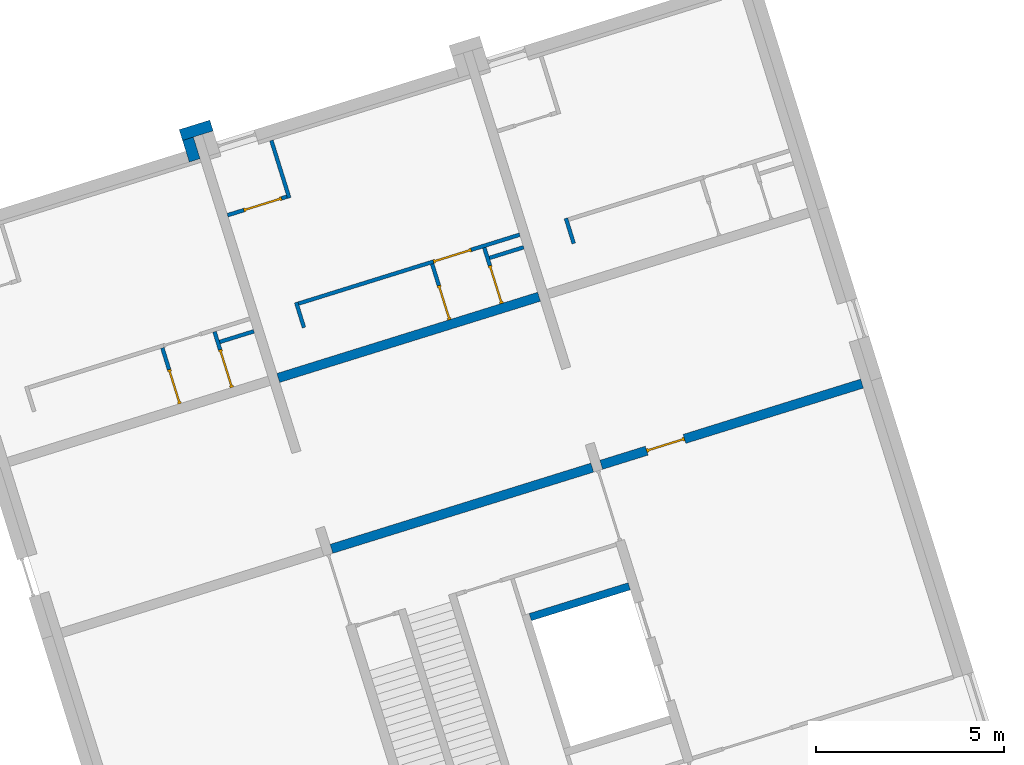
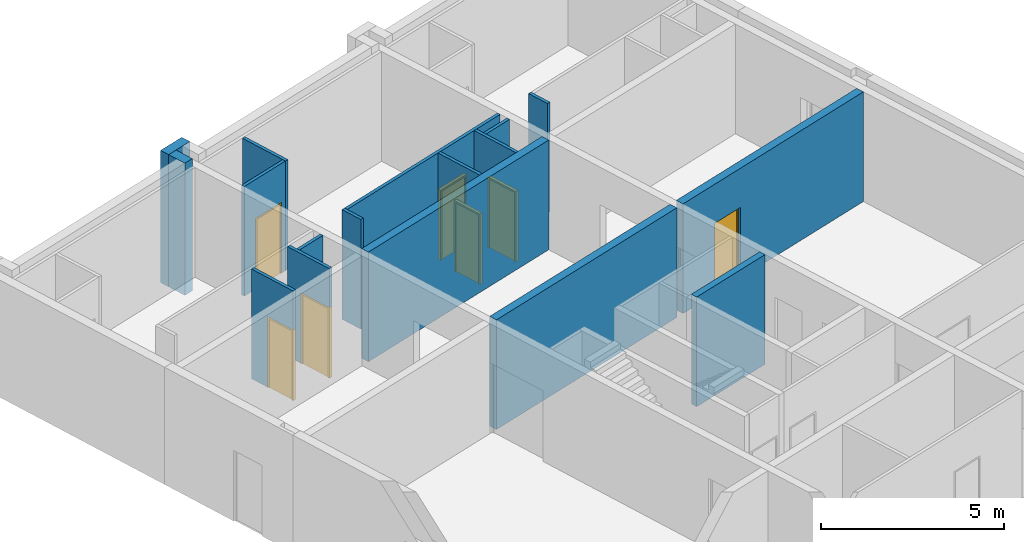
# One storey, part 4 of 10: 17 walls, 7 doors, 8 openings.
"""IFC4 building model written with IfcOpenShell, lengths in metres."""

import ifcopenshell
import ifcopenshell.guid

model = None  # the IFC model being written
_history = None  # IfcOwnerHistory: only IFC2X3 demands one
_inside = {}  # id of a spatial element -> (the spatial element, [elements in it])
_under = {}  # id of a project, library or spatial element -> (it, [spatial elements below it])
_declared = {}  # id of a project -> (the project, [libraries it declares])
_typed = {}  # id of a type object -> (the type object, [elements of that type])
_made_of = {}  # id of a material, layer set ... -> (it, [elements and type objects made of it])


def new_model(schema):
    """Start an empty IFC model of exactly this schema.

    Asked for "IFC4X3", IfcOpenShell would pick the latest addendum, in which some entities
    have other attributes; the version numbers below select the first issue.
    IFC2X3 requires an IfcOwnerHistory on every rooted entity: one is made here for all.
    """
    global model, _history
    if schema == "IFC4X3":
        model = ifcopenshell.file(schema_version=(4, 3, 0, 0))
    else:
        model = ifcopenshell.file(schema=schema)
    _inside.clear()
    _under.clear()
    _declared.clear()
    _typed.clear()
    _made_of.clear()
    _history = None
    if model.schema == "IFC2X3":
        org = make("IfcOrganization", Name="unknown")
        user = make(
            "IfcPersonAndOrganization",
            ThePerson=make("IfcPerson", FamilyName="unknown"),
            TheOrganization=org,
        )
        app = make(
            "IfcApplication",
            ApplicationDeveloper=org,
            Version="unknown",
            ApplicationFullName="unknown",
            ApplicationIdentifier="unknown",
        )
        _history = make(
            "IfcOwnerHistory",
            OwningUser=user,
            OwningApplication=app,
            ChangeAction="ADDED",
            CreationDate=0,
        )
    return model


def make(cls, **values):
    """One entity of the class cls with the attributes given. An attribute that is None is left unset."""
    return model.create_entity(
        cls, **{name: value for name, value in values.items() if value is not None}
    )


def entity(cls, *values):
    """Any entity or typed value of the class cls, its attributes in the order of the schema. None: left unset."""
    e = model.create_entity(cls)
    for i, value in enumerate(values):
        if value is not None:
            e[i] = value
    return e


def rooted(cls, **values):
    """An entity with a GlobalId (a new one), such as an element, a storey or a relation."""
    return make(cls, GlobalId=ifcopenshell.guid.new(), OwnerHistory=_history, **values)


def si_unit(unit_type, name, prefix=None):
    """IfcSIUnit, for example si_unit("LENGTHUNIT", "METRE", prefix="MILLI")."""
    return make("IfcSIUnit", UnitType=unit_type, Prefix=prefix, Name=name)


def converted_unit(unit_type, name, factor, base, dimensions=None, offset=None):
    """IfcConversionBasedUnit, such as the inch: factor (a typed value) times the base unit."""
    return make(
        "IfcConversionBasedUnit"
        if offset is None
        else "IfcConversionBasedUnitWithOffset",
        ConversionOffset=offset,
        Dimensions=None
        if dimensions is None
        else entity("IfcDimensionalExponents", *dimensions),
        UnitType=unit_type,
        Name=name,
        ConversionFactor=make(
            "IfcMeasureWithUnit", ValueComponent=factor, UnitComponent=base
        ),
    )


def assignment(units):
    """IfcUnitAssignment: the units of a project."""
    return None if units is None else make("IfcUnitAssignment", Units=units)


def point(xyz):
    """IfcCartesianPoint."""
    return None if xyz is None else make("IfcCartesianPoint", Coordinates=xyz)


def direction(xyz):
    """IfcDirection."""
    return None if xyz is None else make("IfcDirection", DirectionRatios=xyz)


def frame(location, z_axis=None, x_axis=None):
    """IfcAxis2Placement3D, a coordinate frame: its origin and axes. An axis left out is left unset."""
    return make(
        "IfcAxis2Placement3D",
        Location=point(location),
        Axis=direction(z_axis),
        RefDirection=direction(x_axis),
    )


def origin():
    """The frame at (0, 0, 0) with its axes left unset."""
    return frame((0.0, 0.0, 0.0))


def place(relative_to, where):
    """IfcLocalPlacement: puts the frame where relative to a parent placement (None: the world)."""
    return make(
        "IfcLocalPlacement", PlacementRelTo=relative_to, RelativePlacement=where
    )


def context(
    kind, dimensions, precision=None, world=None, true_north=None, identifier=None
):
    """IfcGeometricRepresentationContext, for example the 3D "Model" context."""
    return make(
        "IfcGeometricRepresentationContext",
        ContextIdentifier=identifier,
        ContextType=kind,
        CoordinateSpaceDimension=dimensions,
        Precision=precision,
        WorldCoordinateSystem=world,
        TrueNorth=true_north,
    )


def subcontext(parent, identifier, kind, view, scale=None):
    """IfcGeometricRepresentationSubContext, for example "Body" below "Model"."""
    return make(
        "IfcGeometricRepresentationSubContext",
        ContextIdentifier=identifier,
        ContextType=kind,
        ParentContext=parent,
        TargetScale=scale,
        TargetView=view,
    )


def project(units=None, contexts=None):
    """IfcProject with its units and contexts."""
    return rooted(
        "IfcProject",
        Name="project",
        RepresentationContexts=contexts,
        UnitsInContext=assignment(units),
    )


def spatial(cls, under=None, at=None, **own):
    """A site, building, storey or space (cls), placed at a placement, below another one or the project."""
    s = rooted(cls, ObjectPlacement=at, **own)
    if under is not None:
        _under.setdefault(under.id(), (under, []))[1].append(s)
    return s


def point_list(points):
    """IfcCartesianPointList2D or 3D."""
    cls = (
        "IfcCartesianPointList2D" if len(points[0]) == 2 else "IfcCartesianPointList3D"
    )
    return make(cls, CoordList=points)


def indexed_curve(points, segments=None, self_intersect=None):
    """IfcIndexedPolyCurve: lines and arcs through numbered points (the first is 1)."""
    return make(
        "IfcIndexedPolyCurve",
        Points=point_list(points),
        Segments=segments,
        SelfIntersect=self_intersect,
    )


def outline(outer, holes=None, kind="AREA"):
    """IfcArbitraryClosedProfileDef: a profile drawn as a closed curve; with holes, ...WithVoids."""
    if holes is None:
        return make("IfcArbitraryClosedProfileDef", ProfileType=kind, OuterCurve=outer)
    return make(
        "IfcArbitraryProfileDefWithVoids",
        ProfileType=kind,
        OuterCurve=outer,
        InnerCurves=holes,
    )


def extrude(swept, where, along, depth):
    """IfcExtrudedAreaSolid: the profile swept, set in the frame where, extruded along a direction by depth."""
    return make(
        "IfcExtrudedAreaSolid",
        SweptArea=swept,
        Position=where,
        ExtrudedDirection=direction(along),
        Depth=depth,
    )


def polygons(points, faces, closed=None, point_numbers=None):
    """IfcPolygonalFaceSet: a face is its outer loop, then its inner loops; points numbered from 1."""
    made = []
    for loops in faces:
        if len(loops) == 1:
            made.append(make("IfcIndexedPolygonalFace", CoordIndex=loops[0]))
        else:
            made.append(
                make(
                    "IfcIndexedPolygonalFaceWithVoids",
                    CoordIndex=loops[0],
                    InnerCoordIndices=loops[1:],
                )
            )
    return make(
        "IfcPolygonalFaceSet",
        Coordinates=point_list(points),
        Closed=closed,
        Faces=made,
        PnIndex=point_numbers,
    )


def shape(context_of_items, identifier, shape_type, items):
    """IfcShapeRepresentation: the items that make up one representation, for example the "Body"."""
    return make(
        "IfcShapeRepresentation",
        ContextOfItems=context_of_items,
        RepresentationIdentifier=identifier,
        RepresentationType=shape_type,
        Items=items,
    )


def source(mapping_origin, context_of_items, identifier, shape_type, items):
    """IfcRepresentationMap: a shape defined once, which mapped items show again and again."""
    return make(
        "IfcRepresentationMap",
        MappingOrigin=mapping_origin,
        MappedRepresentation=shape(context_of_items, identifier, shape_type, items),
    )


def transform(
    local_origin,
    x_axis=None,
    y_axis=None,
    z_axis=None,
    scale=None,
    scale2=None,
    scale3=None,
    uniform=True,
):
    """IfcCartesianTransformationOperator3D, or its non-uniform kind. x_axis, y_axis, z_axis: its Axis1, 2, 3."""
    if uniform:
        return make(
            "IfcCartesianTransformationOperator3D",
            Axis1=direction(x_axis),
            Axis2=direction(y_axis),
            LocalOrigin=point(local_origin),
            Scale=scale,
            Axis3=direction(z_axis),
        )
    return make(
        "IfcCartesianTransformationOperator3DnonUniform",
        Axis1=direction(x_axis),
        Axis2=direction(y_axis),
        LocalOrigin=point(local_origin),
        Scale=scale,
        Axis3=direction(z_axis),
        Scale2=scale2,
        Scale3=scale3,
    )


def mapped(mapping_source, mapping_target):
    """IfcMappedItem: shows the shape of a source again, moved by a transform."""
    return make(
        "IfcMappedItem", MappingSource=mapping_source, MappingTarget=mapping_target
    )


def material(Name=None, Category=None):
    """IfcMaterial."""
    return make("IfcMaterial", Name=Name, Category=Category)


def constituent(of_material, Name=None, Category=None, fraction=None):
    """IfcMaterialConstituent: one of the materials an element consists of."""
    return make(
        "IfcMaterialConstituent",
        Name=Name,
        Material=of_material,
        Fraction=fraction,
        Category=Category,
    )


def constituent_set(constituents=None, Name=None):
    """IfcMaterialConstituentSet."""
    return make(
        "IfcMaterialConstituentSet", Name=Name, MaterialConstituents=constituents
    )


def made_of(thing, what):
    """Note that an element or type object is made of a material, layer set ...; save() writes the relation."""
    if what is not None:
        _made_of.setdefault(what.id(), (what, []))[1].append(thing)
    return thing


def type_object(cls, material=None, **own):
    """A type object (cls), such as IfcWallType, which elements share."""
    return made_of(rooted(cls, **own), material)


def type_shapes(of_type, sources):
    """Give a type object the sources (RepresentationMaps) that its elements show as mapped items."""
    of_type.RepresentationMaps = sources


def element(
    cls,
    number,
    at=None,
    inside=None,
    cuts=None,
    type_object=None,
    material=None,
    context=None,
    identifier="Body",
    shape_type=None,
    held_by="IfcProductDefinitionShape",
    body=None,
    shapes=None,
    **own,
):
    """One element of the class cls, such as IfcWall. Its Tag is "e" and its number.

    at: its placement. inside: the storey or other place that contains it. cuts: it is an
    opening in that element (IfcRelVoidsElement). A single representation is given by context,
    identifier, shape_type and body (its items); several are given by shapes. held_by: the class
    of the entity that holds the representations. save() writes the other relations.
    """
    e = rooted(cls, Tag="e%d" % number, ObjectPlacement=at, **own)
    if body is not None:
        shapes = [shape(context, identifier, shape_type, body)]
    if shapes is not None:
        e.Representation = make(held_by, Representations=shapes)
    if inside is not None:
        _inside.setdefault(inside.id(), (inside, []))[1].append(e)
    if cuts is not None:
        rooted(
            "IfcRelVoidsElement", RelatingBuildingElement=cuts, RelatedOpeningElement=e
        )
    if type_object is not None:
        _typed.setdefault(type_object.id(), (type_object, []))[1].append(e)
    return made_of(e, material)


def fill(opening, filler):
    """IfcRelFillsElement: the door or window that sits in an opening."""
    return rooted(
        "IfcRelFillsElement",
        RelatingOpeningElement=opening,
        RelatedBuildingElement=filler,
    )


def aggregate(whole, parts):
    """IfcRelAggregates: a whole, such as a stair, and the parts it consists of."""
    return rooted("IfcRelAggregates", RelatingObject=whole, RelatedObjects=parts)


def save(model, path):
    """Write the relations noted so far, then the file.

    IfcRelAggregates (storeys below a building ...), IfcRelContainedInSpatialStructure (elements
    in a storey), IfcRelDefinesByType, IfcRelAssociatesMaterial and IfcRelDeclares: one each for
    every whole, place, type object, material and project.
    """
    for whole, parts in _under.values():
        aggregate(whole, parts)
    for where, things in _inside.values():
        rooted(
            "IfcRelContainedInSpatialStructure",
            RelatedElements=things,
            RelatingStructure=where,
        )
    for kind, things in _typed.values():
        rooted("IfcRelDefinesByType", RelatedObjects=things, RelatingType=kind)
    for what, things in _made_of.values():
        rooted("IfcRelAssociatesMaterial", RelatedObjects=things, RelatingMaterial=what)
    for by, libraries in _declared.values():
        rooted("IfcRelDeclares", RelatingContext=by, RelatedDefinitions=libraries)
    model.write(path)


model = new_model("IFC4")

# Units and contexts
model_context = context("Model", 3, precision=1e-05, world=origin(), true_north=direction((6.12323399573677e-17, 1.0)))
body_context = subcontext(model_context, "Body", "Model", "MODEL_VIEW")
ifc_project = project(units=[si_unit("LENGTHUNIT", "METRE"), si_unit("AREAUNIT", "SQUARE_METRE"), converted_unit("PLANEANGLEUNIT", "DEGREE", entity("IfcPlaneAngleMeasure", 0.0174532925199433), si_unit("PLANEANGLEUNIT", "RADIAN"), dimensions=[0, 0, 0, 0, 0, 0, 0]), si_unit("VOLUMEUNIT", "CUBIC_METRE")], contexts=[model_context])

# Site, building, storey
site_placement = place(None, frame((13.1347999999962, 11.9886000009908, 0.0), z_axis=(0.0, 0.0, 1.0), x_axis=(0.954770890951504, 0.297342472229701, 0.0)))
site = spatial("IfcSite", under=ifc_project, at=site_placement, Name="Schiehaven", CompositionType="ELEMENT")
building_placement = place(site_placement, origin())
building = spatial("IfcBuilding", under=site, at=building_placement, Name="VORM huis", CompositionType="ELEMENT")
storey_placement = place(building_placement, origin())
storey = spatial("IfcBuildingStorey", under=building, at=storey_placement, Name="00 begane grond", CompositionType="ELEMENT", Elevation=0.0)

# Walls
ifc_material_1 = material(Name="beton_gewapend_ihw", Category="Miscellaneous")
wall_type_1 = type_object("IfcWallType", Name="Basic Wall:28_WA_skelet_wand 250mm_gen", PredefinedType="STANDARD")
wall_1_placement = place(storey_placement, frame((72.3750000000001, 22.1999999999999, 0.0), z_axis=(0.0, 0.0, 1.0), x_axis=(-1.0, 0.0, 0.0)))
element("IfcWall", 1, at=wall_1_placement, inside=storey, type_object=wall_type_1, material=ifc_material_1, Name="Constructieve wand", ObjectType="Wand", PredefinedType="NOTDEFINED", context=body_context, shape_type="SweptSolid", body=[
    extrude(outline(indexed_curve([(7.25000000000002, 0.125000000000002), (2.09007477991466e-15, 0.125000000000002), (-2.09007477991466e-15, -0.125000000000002), (7.25000000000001, -0.125000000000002), (7.25000000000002, 0.125000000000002)], self_intersect=False)), origin(), (0.0, 0.0, 1.0), 3.65),
])
ifc_material_2 = material(Name="ntb_ntb_ntb", Category="Miscellaneous")
wall_type_2 = type_object("IfcWallType", Name="Basic Wall: 300mm_gen", PredefinedType="STANDARD")
wall_2_placement = place(storey_placement, frame((64.7250000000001, 33.7249999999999, -0.5), z_axis=(0.0, 0.0, 1.0), x_axis=(0.0, -1.0, 0.0)))
element("IfcWall", 2, at=wall_2_placement, inside=storey, type_object=wall_type_2, material=ifc_material_2, Name="Gevelwand", ObjectType="Wand", PredefinedType="NOTDEFINED", context=body_context, shape_type="SweptSolid", body=[
    extrude(outline(indexed_curve([(0.600000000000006, 0.150000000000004), (-9.66298299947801e-16, 0.150000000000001), (9.66298299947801e-16, -0.150000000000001), (0.600000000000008, -0.149999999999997), (0.600000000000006, 0.150000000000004)], self_intersect=False)), origin(), (0.0, 0.0, 1.0), 4.4),
])
wall_3_placement = place(storey_placement, frame((65.4250000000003, 33.8749999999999, -0.5), z_axis=(0.0, 0.0, 1.0), x_axis=(-1.0, 0.0, 0.0)))
element("IfcWall", 3, at=wall_3_placement, inside=storey, type_object=wall_type_2, material=ifc_material_2, Name="Gevelwand", ObjectType="Wand", PredefinedType="NOTDEFINED", context=body_context, shape_type="SweptSolid", body=[
    extrude(outline(indexed_curve([(0.850000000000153, 0.150000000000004), (-6.58211410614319e-16, 0.150000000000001), (6.58211410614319e-16, -0.150000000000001), (0.850000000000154, -0.149999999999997), (0.850000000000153, 0.150000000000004)], self_intersect=False)), origin(), (0.0, 0.0, 1.0), 4.4),
])
ifc_material_3 = material(Name="beton_gewapend_prefab-element", Category="Miscellaneous")
wall_type_3 = type_object("IfcWallType", Name="Basic Wall:28_WA_skelet_wand 200mm_gen", PredefinedType="STANDARD")
wall_4_placement = place(storey_placement, frame((69.6250000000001, 18.9, 0.0)))
element("IfcWall", 4, at=wall_4_placement, inside=storey, type_object=wall_type_3, material=ifc_material_3, Name="Constructieve wand", ObjectType="Wand", PredefinedType="NOTDEFINED", context=body_context, shape_type="SweptSolid", body=[
    extrude(outline(indexed_curve([(2.75000000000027, 0.0999999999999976), (2.05391259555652e-16, 0.0999999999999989), (-2.05391259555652e-16, -0.0999999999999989), (2.75000000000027, -0.1), (2.75000000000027, 0.0999999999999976)], self_intersect=False)), origin(), (0.0, 0.0, 1.0), 3.65),
])

# Wall, opening, door
wall_type_4 = type_object("IfcWallType", Name="Basic Wall:22_WA_afbouw_binnenwand 250mm_gen", PredefinedType="STANDARD")
wall_5_placement = place(storey_placement, frame((72.6250000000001, 22.1999999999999, 0.0)))
wall_5 = element("IfcWall", 5, at=wall_5_placement, inside=storey, type_object=wall_type_4, material=ifc_material_2, Name="Binnenwand", ObjectType="Wand", PredefinedType="NOTDEFINED", context=body_context, shape_type="Tessellation", body=[
    polygons([(-3.32898712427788e-15, -0.124999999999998, 0.0), (1.26249999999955, -0.124999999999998, 0.0), (1.26249999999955, -0.124999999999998, 2.34999999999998), (2.31249999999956, -0.124999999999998, 2.34999999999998), (2.31249999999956, -0.124999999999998, 0.0), (7.24999999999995, -0.124999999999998, 0.0), (7.24999999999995, -0.124999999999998, 3.65), (-3.32898712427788e-15, -0.124999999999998, 3.65), (1.26249999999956, 0.125000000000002, 2.34999999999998), (1.26249999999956, 0.125000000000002, 0.0), (9.50064318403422e-16, 0.125000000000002, 0.0), (9.50064318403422e-16, 0.125000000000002, 3.65), (7.24999999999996, 0.125000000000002, 3.65), (7.24999999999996, 0.125000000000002, 0.0), (2.31249999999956, 0.125000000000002, 0.0), (2.31249999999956, 0.125000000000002, 2.34999999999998)], [[[1, 2, 3, 4, 5, 6, 7, 8]], [[9, 10, 11, 12, 13, 14, 15, 16]], [[11, 10, 2, 1]], [[7, 6, 14, 13]], [[8, 7, 13, 12]], [[1, 8, 12, 11]], [[5, 4, 16, 15]], [[3, 2, 10, 9]], [[4, 3, 9, 16]], [[15, 14, 6, 5]]], closed=True),
])
opening_1_placement = place(wall_5_placement, frame((2.31249999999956, 0.125000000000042, 0.0)))
opening_1 = element("IfcOpeningElement", 6, at=opening_1_placement, cuts=wall_5, Name="Vluchtdeur", PredefinedType="OPENING", context=body_context, shape_type="SweptSolid", body=[
    extrude(outline(indexed_curve([(2.34999999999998, 1.1004904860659e-29), (2.34999999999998, 1.05), (0.0, 1.05), (0.0, 1.1004904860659e-29), (2.34999999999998, 1.1004904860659e-29)], self_intersect=False)), frame((0.0, 0.0, 0.0), z_axis=(0.0, -1.0, 0.0), x_axis=(0.0, 0.0, 1.0)), (0.0, 0.0, 1.0), 0.25),
])
ifc_material_4 = material(Name="PD_a_binnenwandopeningen", Category="Miscellaneous")
ifc_constituent_1 = constituent(ifc_material_4, Name="PD_a_binnenwandopeningen", Category="Miscellaneous")
ifc_material_5 = material(Name="metaal_aluminium_ntb", Category="Miscellaneous")
ifc_constituent_2 = constituent(ifc_material_5, Name="metaal_aluminium_ntb", Category="Miscellaneous")
ifc_constituent_set_1 = constituent_set(constituents=[ifc_constituent_1, ifc_constituent_2])
ifc_constituent_3 = constituent(ifc_material_4, Name="PD_a_binnenwandopeningen", Category="Miscellaneous")
ifc_constituent_4 = constituent(ifc_material_5, Name="Panel", Category="Miscellaneous")
ifc_constituent_set_2 = constituent_set(constituents=[ifc_constituent_3, ifc_constituent_4])
door_type_1 = type_object("IfcDoorType", Name="32_DO_binnendeur enkel:binnendeur zelfsluitend 30min", OperationType="NOTDEFINED", PredefinedType="DOOR", material=ifc_constituent_set_2)
shared_shape_1 = source(origin(), body_context, "Body", "SweptSolid", [
    extrude(outline(indexed_curve([(0.475, -1.16249999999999), (0.525000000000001, -1.16249999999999), (0.525000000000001, 1.18749999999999), (-0.525000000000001, 1.18749999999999), (-0.525000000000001, -1.16249999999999), (-0.475, -1.16249999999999), (-0.475, 1.13749999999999), (0.475, 1.13749999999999), (0.475, -1.16249999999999)], self_intersect=False)), frame((0.525000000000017, 0.174999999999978, 1.16249999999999), z_axis=(0.0, -1.0, 0.0), x_axis=(1.0, 0.0, 0.0)), (0.0, 0.0, 1.0), 0.1),
    extrude(outline(indexed_curve([(-0.475, -0.025), (0.475, -0.025), (0.475, 0.025), (-0.475, 0.025), (-0.475, -0.025)], self_intersect=False)), frame((0.525000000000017, 0.12499999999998, 0.0)), (0.0, 0.0, 1.0), 2.29999999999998),
])
type_shapes(door_type_1, [shared_shape_1])
door_1_placement = place(opening_1_placement, frame((0.0, 0.0, 0.0), z_axis=(0.0, 0.0, 1.0), x_axis=(-1.0, 0.0, 0.0)))
door_1 = element("IfcDoor", 7, at=door_1_placement, inside=storey, type_object=door_type_1, material=ifc_constituent_set_1, Name="Vluchtdeur", ObjectType="Deur", OperationType="NOTDEFINED", OverallHeight=2.34999999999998, OverallWidth=1.05, PredefinedType="DOOR", context=body_context, shape_type="MappedRepresentation", body=[
    mapped(shared_shape_1, transform((0.0, 0.0, 0.0), scale=1.0)),
])
fill(opening_1, door_1)

# Wall
wall_6_placement = place(storey_placement, frame((72.375, 26.9499999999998, 0.0), z_axis=(0.0, 0.0, 1.0), x_axis=(-1.0, 0.0, 0.0)))
element("IfcWall", 8, at=wall_6_placement, inside=storey, type_object=wall_type_4, material=ifc_material_2, Name="Binnenwand", ObjectType="Wand", PredefinedType="NOTDEFINED", context=body_context, shape_type="SweptSolid", body=[
    extrude(outline(indexed_curve([(7.24999999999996, 0.125000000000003), (2.22995564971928e-15, 0.125000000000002), (-2.22995564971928e-15, -0.125000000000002), (7.24999999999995, -0.125000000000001), (7.24999999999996, 0.125000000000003)], self_intersect=False)), origin(), (0.0, 0.0, 1.0), 3.65),
])

# Wall, opening, door
wall_type_5 = type_object("IfcWallType", Name="Basic Wall:22_WA_afbouw_binnenwand 100mm_gen", PredefinedType="STANDARD")
wall_7_placement = place(storey_placement, frame((62.4250000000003, 28.6249999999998, 0.0), z_axis=(0.0, 0.0, 1.0), x_axis=(0.0, -1.0, 0.0)))
wall_7 = element("IfcWall", 9, at=wall_7_placement, inside=storey, type_object=wall_type_5, material=ifc_material_2, Name="Binnenwand", ObjectType="Wand", PredefinedType="NOTDEFINED", context=body_context, shape_type="Tessellation", body=[
    polygons([(1.55, -0.0500000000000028, 3.65), (4.33146851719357e-15, -0.0500000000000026, 3.65), (4.33146851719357e-15, -0.0500000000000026, 0.0), (0.599999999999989, -0.0500000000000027, 0.0), (0.599999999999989, -0.0500000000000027, 2.34999999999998), (1.55, -0.0500000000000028, 2.34999999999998), (4.33146851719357e-15, 0.0500000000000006, 3.65), (1.55, 0.0500000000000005, 3.65), (1.55, 0.0500000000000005, 2.34999999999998), (0.599999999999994, 0.0500000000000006, 2.34999999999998), (0.599999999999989, 0.0500000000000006, 0.0), (4.33146851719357e-15, 0.0500000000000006, 0.0), (0.0, 0.0500000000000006, 2.34999999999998)], [[[1, 2, 3, 4, 5, 6]], [[7, 8, 9, 10, 11, 12, 13]], [[3, 12, 11, 4]], [[8, 1, 6, 9]], [[2, 1, 8, 7]], [[10, 5, 4, 11]], [[5, 10, 9, 6]], [[3, 2, 7, 13, 12]]], closed=True),
])
opening_2_placement = place(wall_7_placement, frame((0.599999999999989, -0.0499999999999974, 0.0)))
opening_2 = element("IfcOpeningElement", 10, at=opening_2_placement, cuts=wall_7, Name="Binnendeur", PredefinedType="OPENING", context=body_context, shape_type="SweptSolid", body=[
    extrude(outline(indexed_curve([(2.34999999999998, 0.950000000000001), (0.0, 0.950000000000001), (0.0, 2.70716782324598e-16), (2.34999999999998, 2.70716782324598e-16), (2.34999999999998, 0.950000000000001)], self_intersect=False)), frame((0.0, 0.0, 0.0), z_axis=(0.0, 1.0, 0.0), x_axis=(0.0, 0.0, 1.0)), (0.0, 0.0, 1.0), 0.1),
])
ifc_constituent_5 = constituent(ifc_material_4, Name="PD_a_binnenwandopeningen", Category="Miscellaneous")
ifc_constituent_6 = constituent(ifc_material_5, Name="metaal_aluminium_ntb", Category="Miscellaneous")
ifc_constituent_set_3 = constituent_set(constituents=[ifc_constituent_5, ifc_constituent_6])
ifc_constituent_7 = constituent(ifc_material_4, Name="PD_a_binnenwandopeningen", Category="Miscellaneous")
ifc_constituent_8 = constituent(ifc_material_5, Name="Panel", Category="Miscellaneous")
ifc_constituent_set_4 = constituent_set(constituents=[ifc_constituent_7, ifc_constituent_8])
door_type_2 = type_object("IfcDoorType", Name="32_DO_binnendeur enkel:kastdeur", OperationType="REVOLVING", PredefinedType="DOOR", material=ifc_constituent_set_4)
shared_shape_2 = source(origin(), body_context, "Body", "SweptSolid", [
    extrude(outline(indexed_curve([(-1.16249999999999, -0.475000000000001), (1.18749999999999, -0.475000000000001), (1.18749999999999, 0.475000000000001), (-1.16249999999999, 0.475000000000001), (-1.16249999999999, 0.425), (1.13749999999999, 0.425), (1.13749999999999, -0.425), (-1.16249999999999, -0.425), (-1.16249999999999, -0.475000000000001)], self_intersect=False)), frame((0.475000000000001, 0.0, 1.16249999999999), z_axis=(0.0, 1.0, 0.0), x_axis=(0.0, 0.0, 1.0)), (0.0, 0.0, 1.0), 0.1),
    extrude(outline(indexed_curve([(-0.0250000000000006, -0.425), (0.0249999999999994, -0.425), (0.0250000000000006, 0.425), (-0.0249999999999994, 0.425), (-0.0250000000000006, -0.425)], self_intersect=False)), frame((0.475000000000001, 0.0499999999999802, 0.0), z_axis=(0.0, 0.0, 1.0), x_axis=(0.0, 1.0, 0.0)), (0.0, 0.0, 1.0), 2.29999999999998),
])
type_shapes(door_type_2, [shared_shape_2])
door_2_placement = place(opening_2_placement, origin())
door_2 = element("IfcDoor", 11, at=door_2_placement, inside=storey, type_object=door_type_2, material=ifc_constituent_set_3, Name="Binnendeur", ObjectType="Deur", OperationType="REVOLVING", OverallHeight=2.34999999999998, OverallWidth=0.950000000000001, PredefinedType="DOOR", context=body_context, shape_type="MappedRepresentation", body=[
    mapped(shared_shape_2, transform((0.0, 0.0, 0.0), scale=1.0)),
])
fill(opening_2, door_2)

# Wall
wall_8_placement = place(storey_placement, frame((64.8750000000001, 28.3249999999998, 0.0), z_axis=(0.0, 0.0, 1.0), x_axis=(-1.0, 0.0, 0.0)))
element("IfcWall", 12, at=wall_8_placement, inside=storey, type_object=wall_type_5, material=ifc_material_2, Name="Binnenwand", ObjectType="Wand", PredefinedType="NOTDEFINED", context=body_context, shape_type="SweptSolid", body=[
    extrude(outline(indexed_curve([(0.950000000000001, 0.0500000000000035), (-9.68509587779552e-17, 0.0500000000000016), (9.68509587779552e-17, -0.0500000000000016), (0.950000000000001, -0.0499999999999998), (0.950000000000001, 0.0500000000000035)], self_intersect=False)), origin(), (0.0, 0.0, 1.0), 3.65),
])

# Wall, opening, door
wall_9_placement = place(storey_placement, frame((63.8750000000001, 27.0749999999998, 0.0), z_axis=(0.0, 0.0, 1.0), x_axis=(0.0, 1.0, 0.0)))
wall_9 = element("IfcWall", 13, at=wall_9_placement, inside=storey, type_object=wall_type_5, material=ifc_material_2, Name="Binnenwand", ObjectType="Wand", PredefinedType="NOTDEFINED", context=body_context, shape_type="Tessellation", body=[
    polygons([(1.54999999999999, -0.0500000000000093, 3.65), (1.29999999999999, -0.0500000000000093, 3.65), (1.19999999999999, -0.0500000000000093, 3.65), (0.0, -0.0500000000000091, 3.65), (0.0, -0.0500000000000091, 2.34999999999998), (1.05, -0.0500000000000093, 2.34999999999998), (1.05, -0.0500000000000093, 0.0), (1.19999999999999, -0.0500000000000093, 0.0), (1.29999999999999, -0.0500000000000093, 0.0), (1.54999999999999, -0.0500000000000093, 0.0), (0.0, 0.0499999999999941, 3.65), (1.54999999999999, 0.0499999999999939, 3.65), (1.54999999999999, 0.0499999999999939, 0.0), (1.05, 0.049999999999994, 0.0), (1.05, 0.049999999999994, 2.34999999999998), (0.0, 0.0499999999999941, 2.34999999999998)], [[[1, 2, 3, 4, 5, 6, 7, 8, 9, 10]], [[11, 12, 13, 14, 15, 16]], [[13, 10, 9, 8, 7, 14]], [[4, 3, 2, 1, 12, 11]], [[4, 11, 16, 5]], [[6, 15, 14, 7]], [[15, 6, 5, 16]], [[1, 10, 13, 12]]], closed=True),
])
opening_3_placement = place(wall_9_placement, frame((0.0, -0.0500000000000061, 0.0)))
opening_3 = element("IfcOpeningElement", 14, at=opening_3_placement, cuts=wall_9, Name="Binnendeur", PredefinedType="OPENING", context=body_context, shape_type="SweptSolid", body=[
    extrude(outline(indexed_curve([(2.34999999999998, 1.05), (0.0, 1.05), (0.0, 1.48335986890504e-32), (2.34999999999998, 1.48335986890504e-32), (2.34999999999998, 1.05)], self_intersect=False)), frame((0.0, 0.0, 0.0), z_axis=(0.0, 1.0, 0.0), x_axis=(0.0, 0.0, 1.0)), (0.0, 0.0, 1.0), 0.1),
])
ifc_constituent_9 = constituent(ifc_material_4, Name="PD_a_binnenwandopeningen", Category="Miscellaneous")
ifc_constituent_10 = constituent(ifc_material_5, Name="metaal_aluminium_ntb", Category="Miscellaneous")
ifc_constituent_set_5 = constituent_set(constituents=[ifc_constituent_9, ifc_constituent_10])
ifc_constituent_11 = constituent(ifc_material_4, Name="PD_a_binnenwandopeningen", Category="Miscellaneous")
ifc_constituent_12 = constituent(ifc_material_5, Name="Panel", Category="Miscellaneous")
ifc_constituent_set_6 = constituent_set(constituents=[ifc_constituent_11, ifc_constituent_12])
door_type_3 = type_object("IfcDoorType", Name="32_DO_binnendeur enkel:binnendeur", OperationType="REVOLVING", PredefinedType="DOOR", material=ifc_constituent_set_6)
shared_shape_3 = source(origin(), body_context, "Body", "SweptSolid", [
    extrude(outline(indexed_curve([(-1.16249999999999, -0.525000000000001), (1.18749999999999, -0.525), (1.18749999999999, 0.525), (-1.16249999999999, 0.525), (-1.16249999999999, 0.475), (1.13749999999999, 0.475), (1.13749999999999, -0.475), (-1.16249999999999, -0.475), (-1.16249999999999, -0.525000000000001)], self_intersect=False)), frame((0.525000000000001, 0.0, 1.16249999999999), z_axis=(0.0, 1.0, 0.0), x_axis=(0.0, 0.0, 1.0)), (0.0, 0.0, 1.0), 0.1),
    extrude(outline(indexed_curve([(-0.025, -0.475), (0.025, -0.475), (0.025, 0.475), (-0.025, 0.475), (-0.025, -0.475)], self_intersect=False)), frame((0.525000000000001, 0.0499999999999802, 0.0), z_axis=(0.0, 0.0, 1.0), x_axis=(0.0, 1.0, 0.0)), (0.0, 0.0, 1.0), 2.29999999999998),
])
type_shapes(door_type_3, [shared_shape_3])
door_3_placement = place(opening_3_placement, origin())
door_3 = element("IfcDoor", 15, at=door_3_placement, inside=storey, type_object=door_type_3, material=ifc_constituent_set_5, Name="Binnendeur", ObjectType="Deur", OperationType="REVOLVING", OverallHeight=2.34999999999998, OverallWidth=1.05, PredefinedType="DOOR", context=body_context, shape_type="MappedRepresentation", body=[
    mapped(shared_shape_3, transform((0.0, 0.0, 0.0), scale=1.0)),
])
fill(opening_3, door_3)

wall_10_placement = place(storey_placement, frame((69.9250000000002, 28.6249999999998, 0.0), z_axis=(0.0, 0.0, 1.0), x_axis=(0.0, -1.0, 0.0)))
wall_10 = element("IfcWall", 16, at=wall_10_placement, inside=storey, type_object=wall_type_5, material=ifc_material_2, Name="Binnenwand", ObjectType="Wand", PredefinedType="NOTDEFINED", context=body_context, shape_type="Tessellation", body=[
    polygons([(1.54999999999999, -0.0500000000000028, 3.65), (0.0, -0.0500000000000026, 3.65), (0.0, -0.0500000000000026, 0.0), (0.599999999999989, -0.0500000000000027, 0.0), (0.599999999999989, -0.0500000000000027, 2.34999999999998), (1.54999999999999, -0.0500000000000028, 2.34999999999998), (0.0, 0.0500000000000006, 3.65), (1.54999999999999, 0.0500000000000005, 3.65), (1.54999999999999, 0.0500000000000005, 2.34999999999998), (0.599999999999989, 0.0500000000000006, 2.34999999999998), (0.599999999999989, 0.0500000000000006, 0.0), (0.0, 0.0500000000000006, 0.0), (0.0, 0.0500000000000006, 2.34999999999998)], [[[1, 2, 3, 4, 5, 6]], [[7, 8, 9, 10, 11, 12, 13]], [[3, 12, 11, 4]], [[8, 1, 6, 9]], [[2, 1, 8, 7]], [[10, 5, 4, 11]], [[5, 10, 9, 6]], [[3, 2, 7, 13, 12]]], closed=True),
])
opening_4_placement = place(wall_10_placement, frame((0.599999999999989, -0.0499999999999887, 0.0)))
opening_4 = element("IfcOpeningElement", 17, at=opening_4_placement, cuts=wall_10, Name="Binnendeur", PredefinedType="OPENING", context=body_context, shape_type="SweptSolid", body=[
    extrude(outline(indexed_curve([(2.34999999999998, 0.950000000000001), (0.0, 0.950000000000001), (0.0, 2.70716782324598e-16), (2.34999999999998, 2.70716782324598e-16), (2.34999999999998, 0.950000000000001)], self_intersect=False)), frame((0.0, 0.0, 0.0), z_axis=(0.0, 1.0, 0.0), x_axis=(0.0, 0.0, 1.0)), (0.0, 0.0, 1.0), 0.1),
])
ifc_constituent_13 = constituent(ifc_material_4, Name="PD_a_binnenwandopeningen", Category="Miscellaneous")
ifc_constituent_14 = constituent(ifc_material_5, Name="metaal_aluminium_ntb", Category="Miscellaneous")
ifc_constituent_set_7 = constituent_set(constituents=[ifc_constituent_13, ifc_constituent_14])
door_4_placement = place(opening_4_placement, origin())
door_4 = element("IfcDoor", 18, at=door_4_placement, inside=storey, type_object=door_type_2, material=ifc_constituent_set_7, Name="Binnendeur", ObjectType="Deur", OperationType="REVOLVING", OverallHeight=2.34999999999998, OverallWidth=0.950000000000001, PredefinedType="DOOR", context=body_context, shape_type="MappedRepresentation", body=[
    mapped(shared_shape_2, transform((0.0, 0.0, 0.0), scale=1.0)),
])
fill(opening_4, door_4)

# Wall, openings, door
wall_11_placement = place(storey_placement, frame((66.225, 28.6749999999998, 0.0)))
wall_11 = element("IfcWall", 19, at=wall_11_placement, inside=storey, type_object=wall_type_5, material=ifc_material_2, Name="Binnenwand", ObjectType="Wand", PredefinedType="NOTDEFINED", context=body_context, shape_type="Tessellation", body=[
    polygons([(3.3460741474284e-15, -0.0499999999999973, 0.0), (3.65000000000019, -0.0499999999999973, 0.0), (3.7500000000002, -0.0499999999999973, 0.0), (3.7500000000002, -0.0499999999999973, 2.34999999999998), (4.8000000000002, -0.0499999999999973, 2.34999999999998), (4.8000000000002, -0.0499999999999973, 0.0), (5.10000000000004, -0.0499999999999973, 0.0), (5.20000000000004, -0.0499999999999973, 0.0), (6.15000000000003, -0.0499999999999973, 0.0), (6.15000000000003, -0.0499999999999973, 3.65), (5.20000000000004, -0.0499999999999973, 3.65), (5.10000000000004, -0.0499999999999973, 3.65), (3.75000000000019, -0.0499999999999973, 3.65), (3.65000000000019, -0.0499999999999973, 3.65), (3.3460741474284e-15, -0.0499999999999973, 3.65), (3.7500000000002, 0.0500000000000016, 2.34999999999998), (3.7500000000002, 0.0500000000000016, 0.0), (3.35776348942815e-15, 0.0500000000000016, 0.0), (3.35776348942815e-15, 0.0500000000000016, 3.65), (6.15000000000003, 0.0500000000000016, 3.65), (6.15000000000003, 0.0500000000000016, 0.0), (4.8000000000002, 0.0500000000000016, 0.0), (4.8000000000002, 0.0500000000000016, 2.34999999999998)], [[[1, 2, 3, 4, 5, 6, 7, 8, 9, 10, 11, 12, 13, 14, 15]], [[16, 17, 18, 19, 20, 21, 22, 23]], [[18, 17, 3, 2, 1]], [[10, 9, 21, 20]], [[15, 14, 13, 12, 11, 10, 20, 19]], [[6, 5, 23, 22]], [[4, 3, 17, 16]], [[5, 4, 16, 23]], [[1, 15, 19, 18]], [[22, 21, 9, 8, 7, 6]]], closed=True),
])
opening_5_placement = place(wall_11_placement, frame((3.7500000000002, -0.0500000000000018, 0.0)))
opening_5 = element("IfcOpeningElement", 20, at=opening_5_placement, cuts=wall_11, Name="Binnendeur", PredefinedType="OPENING", context=body_context, shape_type="SweptSolid", body=[
    extrude(outline(indexed_curve([(2.34999999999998, 1.05), (0.0, 1.05), (0.0, 1.48335986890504e-32), (2.34999999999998, 1.48335986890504e-32), (2.34999999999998, 1.05)], self_intersect=False)), frame((0.0, 0.0, 0.0), z_axis=(0.0, 1.0, 0.0), x_axis=(0.0, 0.0, 1.0)), (0.0, 0.0, 1.0), 0.1),
])
opening_6_placement = place(wall_11_placement, frame((-66.225, -28.6749999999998, 0.0)))
element("IfcOpeningElement", 21, at=opening_6_placement, cuts=wall_11, Name="Binnendeur", PredefinedType="OPENING", context=body_context, shape_type="SweptSolid", body=[
    extrude(outline(indexed_curve([(-1.17499999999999, -0.525000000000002), (1.17499999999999, -0.525000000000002), (1.17499999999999, 0.525000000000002), (-1.17499999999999, 0.525000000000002), (-1.17499999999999, -0.525000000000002)], self_intersect=False)), frame((70.5000000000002, 27.1009999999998, 1.17499999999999), z_axis=(0.0, 1.0, 0.0), x_axis=(0.0, 0.0, -1.0)), (0.0, 0.0, 1.0), 3.048),
])
ifc_constituent_15 = constituent(ifc_material_4, Name="PD_a_binnenwandopeningen", Category="Miscellaneous")
ifc_constituent_16 = constituent(ifc_material_5, Name="metaal_aluminium_ntb", Category="Miscellaneous")
ifc_constituent_set_8 = constituent_set(constituents=[ifc_constituent_15, ifc_constituent_16])
door_5_placement = place(opening_5_placement, origin())
door_5 = element("IfcDoor", 22, at=door_5_placement, inside=storey, type_object=door_type_3, material=ifc_constituent_set_8, Name="Binnendeur", ObjectType="Deur", OperationType="REVOLVING", OverallHeight=2.34999999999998, OverallWidth=1.05, PredefinedType="DOOR", context=body_context, shape_type="MappedRepresentation", body=[
    mapped(shared_shape_3, transform((0.0, 0.0, 0.0), scale=1.0)),
])
fill(opening_5, door_5)

# Wall
wall_12_placement = place(storey_placement, frame((72.3750000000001, 28.3249999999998, 0.0), z_axis=(0.0, 0.0, 1.0), x_axis=(-1.0, 0.0, 0.0)))
element("IfcWall", 23, at=wall_12_placement, inside=storey, type_object=wall_type_5, material=ifc_material_2, Name="Binnenwand", ObjectType="Wand", PredefinedType="NOTDEFINED", context=body_context, shape_type="SweptSolid", body=[
    extrude(outline(indexed_curve([(0.950000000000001, 0.0500000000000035), (-9.68509587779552e-17, 0.0500000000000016), (9.68509587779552e-17, -0.0500000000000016), (0.950000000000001, -0.0499999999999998), (0.950000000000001, 0.0500000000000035)], self_intersect=False)), origin(), (0.0, 0.0, 1.0), 3.65),
])

# Wall, opening, door
wall_13_placement = place(storey_placement, frame((71.3750000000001, 27.0749999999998, 0.0), z_axis=(0.0, 0.0, 1.0), x_axis=(0.0, 1.0, 0.0)))
wall_13 = element("IfcWall", 24, at=wall_13_placement, inside=storey, type_object=wall_type_5, material=ifc_material_2, Name="Binnenwand", ObjectType="Wand", PredefinedType="NOTDEFINED", context=body_context, shape_type="Tessellation", body=[
    polygons([(1.55, -0.0500000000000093, 3.65), (1.29999999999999, -0.0500000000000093, 3.65), (1.19999999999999, -0.0500000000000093, 3.65), (0.0, -0.0500000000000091, 3.65), (0.0, -0.0500000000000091, 2.34999999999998), (1.05, -0.0500000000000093, 2.34999999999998), (1.05, -0.0500000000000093, 0.0), (1.19999999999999, -0.0500000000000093, 0.0), (1.29999999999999, -0.0500000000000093, 0.0), (1.55, -0.0500000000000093, 0.0), (0.0, 0.0500000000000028, 3.65), (1.55, 0.0500000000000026, 3.65), (1.55, 0.0500000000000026, 0.0), (1.05, 0.0500000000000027, 0.0), (1.05, 0.0500000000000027, 2.34999999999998), (0.0, 0.0500000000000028, 2.34999999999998)], [[[1, 2, 3, 4, 5, 6, 7, 8, 9, 10]], [[11, 12, 13, 14, 15, 16]], [[13, 10, 9, 8, 7, 14]], [[4, 3, 2, 1, 12, 11]], [[4, 11, 16, 5]], [[6, 15, 14, 7]], [[15, 6, 5, 16]], [[1, 10, 13, 12]]], closed=True),
])
opening_7_placement = place(wall_13_placement, frame((0.0, -0.0499999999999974, 0.0)))
opening_7 = element("IfcOpeningElement", 25, at=opening_7_placement, cuts=wall_13, Name="Binnendeur", PredefinedType="OPENING", context=body_context, shape_type="SweptSolid", body=[
    extrude(outline(indexed_curve([(2.34999999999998, 1.05), (0.0, 1.05), (0.0, -1.94201555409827e-34), (2.34999999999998, -1.94201555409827e-34), (2.34999999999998, 1.05)], self_intersect=False)), frame((0.0, 0.0, 0.0), z_axis=(0.0, 1.0, 0.0), x_axis=(0.0, 0.0, 1.0)), (0.0, 0.0, 1.0), 0.1),
])
ifc_constituent_17 = constituent(ifc_material_4, Name="PD_a_binnenwandopeningen", Category="Miscellaneous")
ifc_constituent_18 = constituent(ifc_material_5, Name="metaal_aluminium_ntb", Category="Miscellaneous")
ifc_constituent_set_9 = constituent_set(constituents=[ifc_constituent_17, ifc_constituent_18])
door_6_placement = place(opening_7_placement, origin())
door_6 = element("IfcDoor", 26, at=door_6_placement, inside=storey, type_object=door_type_3, material=ifc_constituent_set_9, Name="Binnendeur", ObjectType="Deur", OperationType="REVOLVING", OverallHeight=2.34999999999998, OverallWidth=1.05, PredefinedType="DOOR", context=body_context, shape_type="MappedRepresentation", body=[
    mapped(shared_shape_3, transform((0.0, 0.0, 0.0), scale=1.0)),
])
fill(opening_7, door_6)

# Wall
wall_14_placement = place(storey_placement, frame((66.175, 28.0249999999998, 0.0), z_axis=(0.0, 0.0, 1.0), x_axis=(0.0, 1.0, 0.0)))
element("IfcWall", 27, at=wall_14_placement, inside=storey, type_object=wall_type_5, material=ifc_material_2, Name="Binnenwand", ObjectType="Wand", PredefinedType="NOTDEFINED", context=body_context, shape_type="SweptSolid", body=[
    extrude(outline(indexed_curve([(0.699999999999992, 0.0499999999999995), (-1.60750271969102e-16, 0.0499999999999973), (1.60750271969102e-16, -0.0499999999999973), (0.699999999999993, -0.049999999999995), (0.699999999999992, 0.0499999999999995)], self_intersect=False)), origin(), (0.0, 0.0, 1.0), 3.65),
])

# Wall, opening, door
wall_15_placement = place(storey_placement, frame((65.1250000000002, 31.4749999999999, 0.0)))
wall_15 = element("IfcWall", 28, at=wall_15_placement, inside=storey, type_object=wall_type_5, material=ifc_material_2, Name="Binnenwand", ObjectType="Wand", PredefinedType="NOTDEFINED", context=body_context, shape_type="Tessellation", body=[
    polygons([(1.49999999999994, -0.0499999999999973, 2.34999999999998), (1.49999999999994, -0.0499999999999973, 0.0), (1.64999999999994, -0.049999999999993, 0.0), (1.64999999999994, -0.049999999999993, 3.65), (2.9134259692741e-15, -0.049999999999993, 3.65), (2.9134259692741e-15, -0.049999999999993, 0.0), (0.449999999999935, -0.0499999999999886, 0.0), (0.449999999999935, -0.0499999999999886, 2.34999999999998), (1.64999999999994, 0.050000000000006, 0.0), (1.49999999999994, 0.0500000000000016, 0.0), (1.49999999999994, 0.0500000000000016, 2.34999999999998), (0.449999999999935, 0.050000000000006, 2.34999999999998), (0.449999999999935, 0.050000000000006, 0.0), (2.26108845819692e-15, 0.0500000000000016, 0.0), (2.26108845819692e-15, 0.0500000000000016, 3.65), (1.64999999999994, 0.050000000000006, 3.65)], [[[1, 2, 3, 4, 5, 6, 7, 8]], [[9, 10, 11, 12, 13, 14, 15, 16]], [[7, 6, 14, 13]], [[5, 4, 16, 15]], [[6, 5, 15, 14]], [[13, 12, 8, 7]], [[11, 10, 2, 1]], [[12, 11, 1, 8]], [[4, 3, 9, 16]], [[3, 2, 10, 9]]], closed=True),
])
opening_8_placement = place(wall_15_placement, frame((0.449999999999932, -0.0500000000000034, 0.0)))
opening_8 = element("IfcOpeningElement", 29, at=opening_8_placement, cuts=wall_15, Name="Binnendeur", PredefinedType="OPENING", context=body_context, shape_type="SweptSolid", body=[
    extrude(outline(indexed_curve([(2.34999999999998, -1.18100388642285e-29), (2.34999999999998, 1.05), (0.0, 1.05), (0.0, -1.18100388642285e-29), (2.34999999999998, -1.18100388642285e-29)], self_intersect=False)), frame((0.0, 0.0, 0.0), z_axis=(0.0, 1.0, 0.0), x_axis=(0.0, 0.0, 1.0)), (0.0, 0.0, 1.0), 0.1),
])
ifc_constituent_19 = constituent(ifc_material_4, Name="PD_a_binnenwandopeningen", Category="Miscellaneous")
ifc_constituent_20 = constituent(ifc_material_5, Name="metaal_aluminium_ntb", Category="Miscellaneous")
ifc_constituent_set_10 = constituent_set(constituents=[ifc_constituent_19, ifc_constituent_20])
ifc_constituent_21 = constituent(ifc_material_4, Name="PD_a_binnenwandopeningen", Category="Miscellaneous")
ifc_constituent_22 = constituent(ifc_material_5, Name="Panel", Category="Miscellaneous")
ifc_constituent_set_11 = constituent_set(constituents=[ifc_constituent_21, ifc_constituent_22])
door_type_4 = type_object("IfcDoorType", Name="32_DO_binnendeur enkel:binnendeur", OperationType="REVOLVING", PredefinedType="DOOR", material=ifc_constituent_set_11)
shared_shape_4 = source(origin(), body_context, "Body", "SweptSolid", [
    extrude(outline(indexed_curve([(0.475, -1.16249999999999), (0.525, -1.16249999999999), (0.525, 1.18749999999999), (-0.525, 1.18749999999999), (-0.525, -1.16249999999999), (-0.475, -1.16249999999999), (-0.475, 1.13749999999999), (0.475, 1.13749999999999), (0.475, -1.16249999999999)], self_intersect=False)), frame((0.525000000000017, 0.100000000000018, 1.16249999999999), z_axis=(0.0, -1.0, 0.0), x_axis=(1.0, 0.0, 0.0)), (0.0, 0.0, 1.0), 0.1),
    extrude(outline(indexed_curve([(-0.475, -0.025), (0.475, -0.025), (0.475, 0.025), (-0.475, 0.025), (-0.475, -0.025)], self_intersect=False)), frame((0.525000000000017, 0.0499999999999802, 0.0)), (0.0, 0.0, 1.0), 2.29999999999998),
])
type_shapes(door_type_4, [shared_shape_4])
door_7_placement = place(opening_8_placement, origin())
door_7 = element("IfcDoor", 30, at=door_7_placement, inside=storey, type_object=door_type_4, material=ifc_constituent_set_10, Name="Binnendeur", ObjectType="Deur", OperationType="REVOLVING", OverallHeight=2.34999999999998, OverallWidth=1.05, PredefinedType="DOOR", context=body_context, shape_type="MappedRepresentation", body=[
    mapped(shared_shape_4, transform((0.0, 0.0, 0.0), scale=1.0)),
])
fill(opening_8, door_7)

# Walls
wall_16_placement = place(storey_placement, frame((66.8250000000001, 31.4249999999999, 0.0), z_axis=(0.0, 0.0, 1.0), x_axis=(0.0, 1.0, 0.0)))
element("IfcWall", 31, at=wall_16_placement, inside=storey, type_object=wall_type_5, material=ifc_material_2, Name="Binnenwand", ObjectType="Wand", PredefinedType="NOTDEFINED", context=body_context, shape_type="SweptSolid", body=[
    extrude(outline(indexed_curve([(1.6, 0.049999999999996), (-2.31639072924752e-16, 0.0499999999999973), (2.31639072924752e-16, -0.0499999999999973), (1.6, -0.0499999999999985), (1.6, 0.049999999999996)], self_intersect=False)), origin(), (0.0, 0.0, 1.0), 3.65),
])
wall_17_placement = place(storey_placement, frame((73.675, 28.0249999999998, 0.0), z_axis=(0.0, 0.0, 1.0), x_axis=(0.0, 1.0, 0.0)))
element("IfcWall", 32, at=wall_17_placement, inside=storey, type_object=wall_type_5, material=ifc_material_2, Name="Binnenwand", ObjectType="Wand", PredefinedType="NOTDEFINED", context=body_context, shape_type="SweptSolid", body=[
    extrude(outline(indexed_curve([(0.699999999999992, 0.0499999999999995), (-1.60750271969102e-16, 0.0499999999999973), (1.60750271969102e-16, -0.0499999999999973), (0.699999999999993, -0.049999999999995), (0.699999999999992, 0.0499999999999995)], self_intersect=False)), origin(), (0.0, 0.0, 1.0), 3.65),
])

save(model, "model.ifc")
